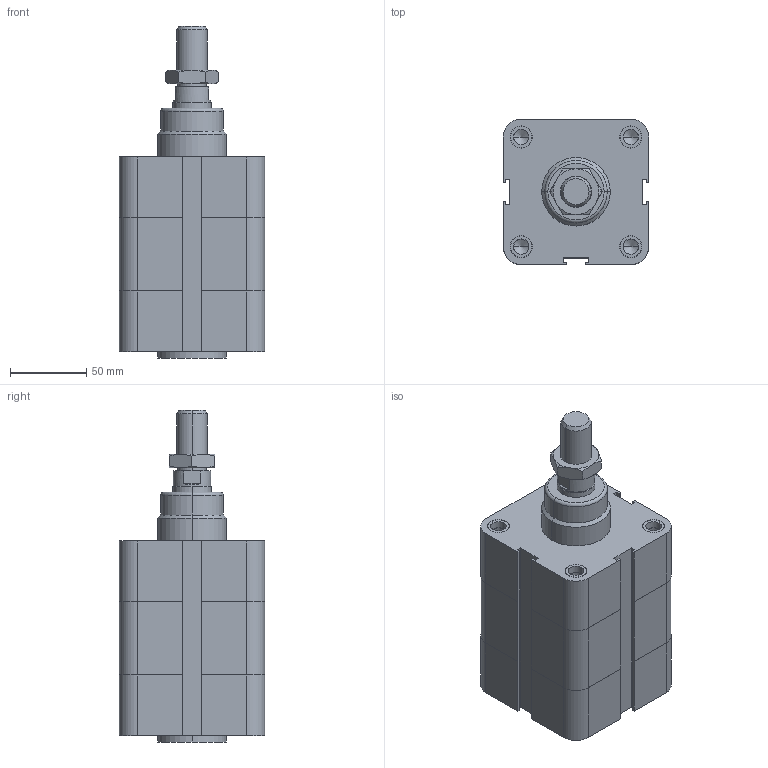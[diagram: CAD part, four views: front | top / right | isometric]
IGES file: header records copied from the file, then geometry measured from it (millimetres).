
Global section: file name: No Iges File Name specified; native system: AutoDesk Inventor R6.1; preprocessor: AutoDesk Inventor Iges Exporter R6.1; author: No Author specified; organization: No Organization specified; date: 20040107.171036; units: millimetre
Bounding box: 95.5 x 95.5 x 218 mm (x, y, z)
Volume: 1177511 mm3; surface area: 98043.3 mm2
Topology: 3 solids, 3 shells, 244 faces, 570 edges, 356 vertices
Faces by surface type: plane 83, bspline 67, cylinder 34, revolution 34, cone 24, torus 2
